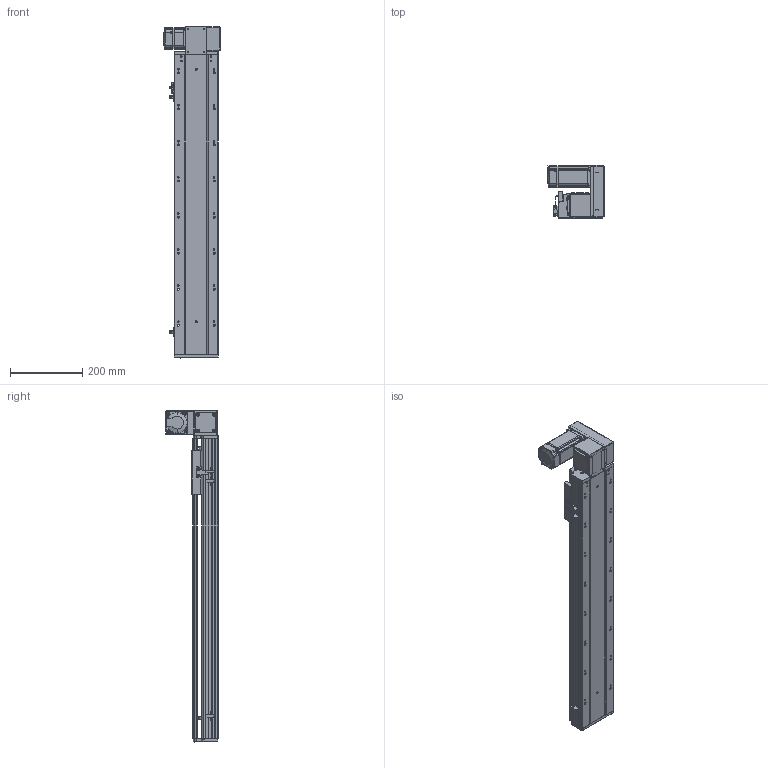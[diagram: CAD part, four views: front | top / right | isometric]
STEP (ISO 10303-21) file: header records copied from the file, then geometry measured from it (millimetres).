
FILE_DESCRIPTION (( 'STEP AP203' ), '1' );
FILE_NAME ('RY120-T-300-UR.SLDASM_600.step', '2021-03-01T05:55:58', ( '盈信电脑' ), ( '东莞市道滘镇水果街19号' ), 'SwSTEP 2.0', 'SolidWorks 2012', '' );
FILE_SCHEMA (( 'CONFIG_CONTROL_DESIGN' ));
Length unit declared in the file: millimetre
Products named in the file (17): RY120-T萇儂欶; RY120-T主同步轮轴承压盖; RY120-T-300-UR.SLDASM_600; RY120-T翋肮祭謫裔啣; RY120-T蹟翐M4; 15; RY120-T肮祭湍揤踡輸2; RY120-T萇儂假蚾啣; RY120-T翋肮祭盓傅釱; 滅袉蝶18-10; RY120外置感应片(140共用）; RY120綴裔啣; RY120-T肮祭湍揤踡輸1; 覜茼ん672; RY120-T-300-UR倰第奻裔啣_600; RY120-T-300-UR倰第菁釱_600; RY120肮祭湍臏賑輸
Assembly tree (22 placements, depth 2):
  RY120-T-300-UR.SLDASM_600
    RY120-T-300-UR倰第菁釱_600
    RY120-T-300-UR倰第奻裔啣_600
    RY120肮祭湍臏賑輸
    RY120綴裔啣
    覜茼ん672  x3
    RY120外置感应片(140共用）
    RY120-T肮祭湍揤踡輸1
    RY120-T肮祭湍揤踡輸2
    RY120-T翋肮祭盓傅釱
    RY120-T萇儂假蚾啣
    滅袉蝶18-10  x2
    RY120-T翋肮祭謫裔啣
    15
    RY120-T蹟翐M4  x4
    RY120-T萇儂欶
    RY120-T主同步轮轴承压盖
Bounding box: 155.5 x 146 x 921 mm (x, y, z)
Volume: 2737352.8 mm3; surface area: 1004559.7 mm2
Topology: 23 solids, 23 shells, 2806 faces, 7672 edges, 4938 vertices
Faces by surface type: plane 1422, cylinder 1068, cone 227, bspline 89
Entity records: 89907 total; most frequent: CARTESIAN_POINT 23180, ORIENTED_EDGE 13816, DIRECTION 12974, EDGE_CURVE 6908, VERTEX_POINT 4525, AXIS2_PLACEMENT_3D 4335, VECTOR 4304, LINE 4304
